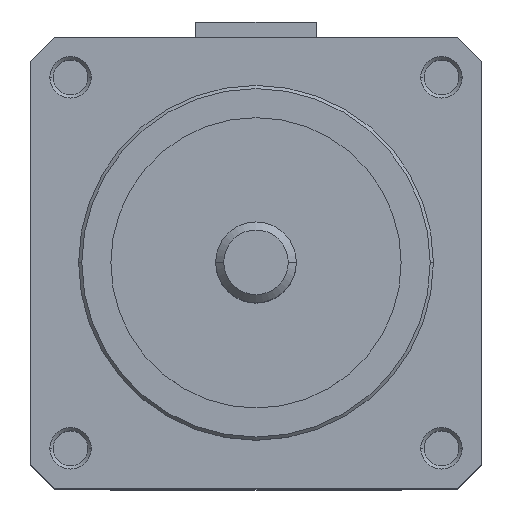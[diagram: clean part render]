
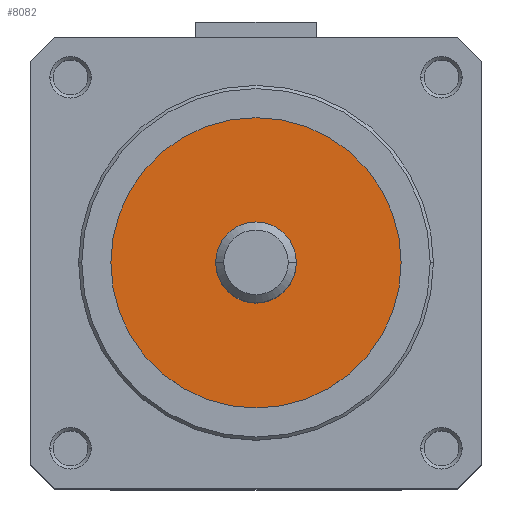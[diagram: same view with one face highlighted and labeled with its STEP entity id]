
A CAD part, top view. The second image highlights one B-rep face of the part: STEP entity #8082.
In plain terms, the highlighted planar face has unit normal (0, 0, 1).
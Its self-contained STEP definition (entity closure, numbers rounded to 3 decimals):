
#956 = AXIS2_PLACEMENT_3D ( 'NONE', #2020, #2029, #2030 ) ;
#1060 = AXIS2_PLACEMENT_3D ( 'NONE', #2527, #2546, #2547 ) ;
#1061 = AXIS2_PLACEMENT_3D ( 'NONE', #2542, #2549, #2550 ) ;
#1405 = AXIS2_PLACEMENT_3D ( 'NONE', #4523, #4524, #4525 ) ;
#1409 = AXIS2_PLACEMENT_3D ( 'NONE', #4544, #4545, #4546 ) ;
#1616 = CIRCLE ( 'NONE', #1405, 9. ) ;
#1631 = CIRCLE ( 'NONE', #1409, 2.5 ) ;
#1998 = FACE_OUTER_BOUND ( 'NONE', #6041, .T. ) ;
#2001 = FACE_BOUND ( 'NONE', #6068, .T. ) ;
#2020 = CARTESIAN_POINT ( 'NONE',  ( 0., 0., 5.65 ) ) ;
#2028 = PLANE ( 'NONE',  #956 ) ;
#2029 = DIRECTION ( 'NONE',  ( 0., 0., 1. ) ) ;
#2030 = DIRECTION ( 'NONE',  ( 1., 0., 0. ) ) ;
#2527 = CARTESIAN_POINT ( 'NONE',  ( 0., 0., 5.65 ) ) ;
#2542 = CARTESIAN_POINT ( 'NONE',  ( 0., 0., 5.65 ) ) ;
#2546 = DIRECTION ( 'NONE',  ( 0., 0., 1. ) ) ;
#2547 = DIRECTION ( 'NONE',  ( 1., 0., 0. ) ) ;
#2549 = DIRECTION ( 'NONE',  ( 0., 0., 1. ) ) ;
#2550 = DIRECTION ( 'NONE',  ( 1., 0., 0. ) ) ;
#3948 = CARTESIAN_POINT ( 'NONE',  ( -2.5, 0., 5.65 ) ) ;
#4147 = CARTESIAN_POINT ( 'NONE',  ( -9., 0., 5.65 ) ) ;
#4150 = CARTESIAN_POINT ( 'NONE',  ( 2.5, 0., 5.65 ) ) ;
#4159 = CARTESIAN_POINT ( 'NONE',  ( 9., 0., 5.65 ) ) ;
#4523 = CARTESIAN_POINT ( 'NONE',  ( 0., 0., 5.65 ) ) ;
#4524 = DIRECTION ( 'NONE',  ( 0., 0., 1. ) ) ;
#4525 = DIRECTION ( 'NONE',  ( 1., 0., 0. ) ) ;
#4544 = CARTESIAN_POINT ( 'NONE',  ( 0., 0., 5.65 ) ) ;
#4545 = DIRECTION ( 'NONE',  ( 0., 0., 1. ) ) ;
#4546 = DIRECTION ( 'NONE',  ( 1., 0., 0. ) ) ;
#6041 = EDGE_LOOP ( 'NONE', ( #6943, #6942 ) ) ;
#6068 = EDGE_LOOP ( 'NONE', ( #6941, #6940 ) ) ;
#6260 = VERTEX_POINT ( 'NONE', #3948 ) ;
#6459 = VERTEX_POINT ( 'NONE', #4147 ) ;
#6462 = VERTEX_POINT ( 'NONE', #4150 ) ;
#6471 = VERTEX_POINT ( 'NONE', #4159 ) ;
#6638 = EDGE_CURVE ( 'NONE', #6459, #6471, #1616, .T. ) ;
#6647 = EDGE_CURVE ( 'NONE', #6462, #6260, #1631, .T. ) ;
#6940 = ORIENTED_EDGE ( 'NONE', *, *, #6647, .F. ) ;
#6941 = ORIENTED_EDGE ( 'NONE', *, *, #8720, .F. ) ;
#6942 = ORIENTED_EDGE ( 'NONE', *, *, #6638, .T. ) ;
#6943 = ORIENTED_EDGE ( 'NONE', *, *, #8721, .T. ) ;
#8082 = ADVANCED_FACE ( 'NONE', ( #1998, #2001 ), #2028, .T. ) ;
#8428 = CIRCLE ( 'NONE', #1060, 2.5 ) ;
#8429 = CIRCLE ( 'NONE', #1061, 9. ) ;
#8720 = EDGE_CURVE ( 'NONE', #6260, #6462, #8428, .T. ) ;
#8721 = EDGE_CURVE ( 'NONE', #6471, #6459, #8429, .T. ) ;
